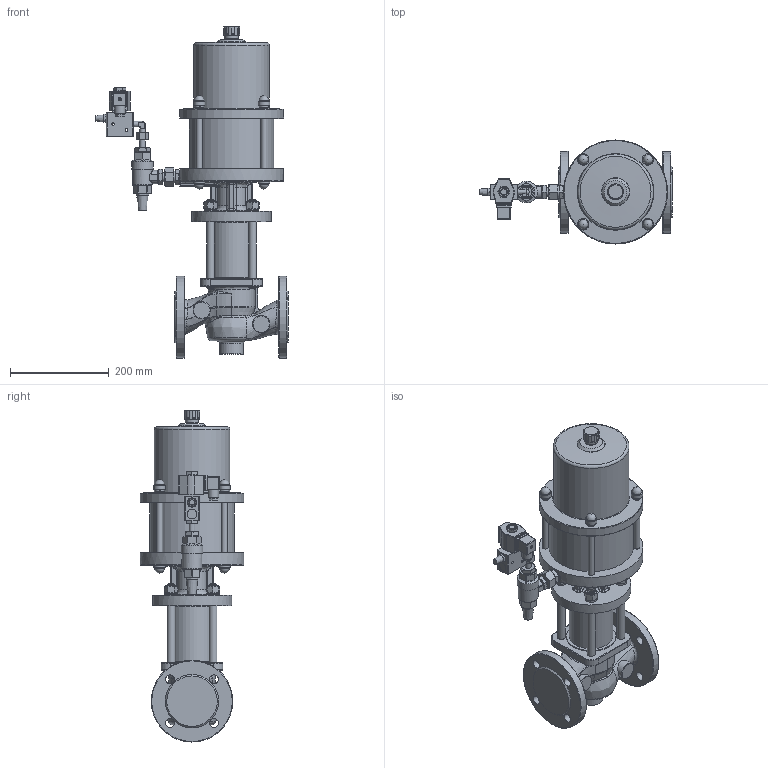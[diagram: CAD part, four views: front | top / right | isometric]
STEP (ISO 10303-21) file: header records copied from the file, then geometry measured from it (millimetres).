
FILE_DESCRIPTION((''),'2;1');
FILE_NAME('G:\CAD-Download\EPVA\40-4-EPVA\DN 20N (50)\40-4-EPVA 20NH-4.stp','2010-11-15T14:49:16',('da'),(''),'Autodesk Inventor 2008','Autodesk Inventor 2008','');
FILE_SCHEMA(('AUTOMOTIVE_DESIGN { 1 0 10303 214 1 1 1 1 }'));
Length unit declared in the file: millimetre
Products named in the file (1): Bauteil15
Bounding box: 389.8 x 210 x 670.85 mm (x, y, z)
Volume: 10556292.3 mm3; surface area: 643802.3 mm2
Topology: 1 solids, 3 shells, 1029 faces, 2584 edges, 1595 vertices
Faces by surface type: plane 390, cylinder 228, bspline 226, cone 112, torus 48, sphere 25
Full cylindrical faces by diameter (mm): 5.5 x1, 6.4 x1, 6.9 x1, 10.957 x1, 10.997 x1, 12 x5, 13 x4, 14 x1, 16 x16, 18 x1, 20.15 x2, 21.2 x4, 21.5 x1, 23 x9, 24.376 x1, 26 x1, 26.6 x1, 27 x3, 32.2 x1, 35 x4, 40 x1, 44 x1, 48 x1, 65 x1, 88 x1, 100 x1, 153 x1, 160 x1, 165 x2, 170 x1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
Entity records: 54529 total; most frequent: CARTESIAN_POINT 31735, ORIENTED_EDGE 4562, DIRECTION 4093, EDGE_CURVE 2281, AXIS2_PLACEMENT_3D 1664, VERTEX_POINT 1493, EDGE_LOOP 1315, FACE_OUTER_BOUND 1029
